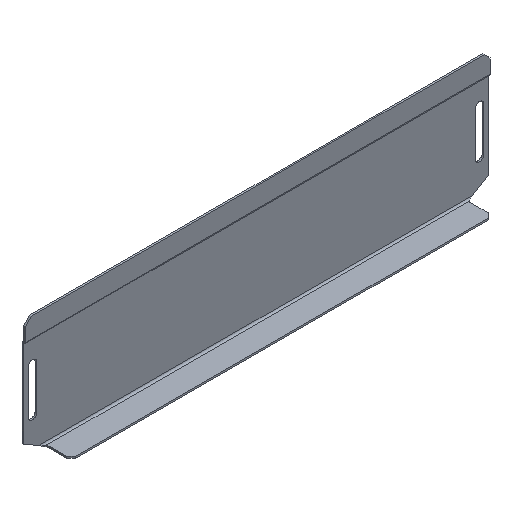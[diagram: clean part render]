
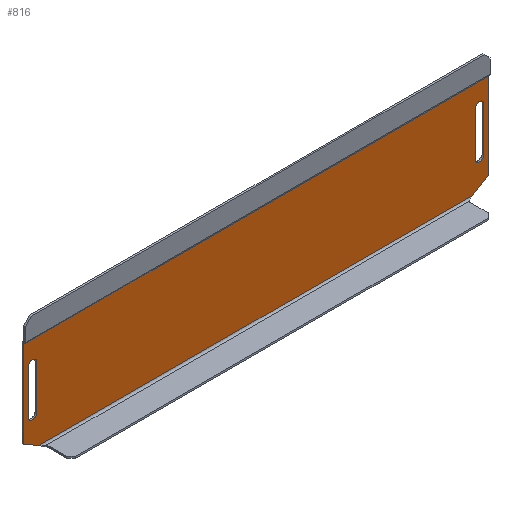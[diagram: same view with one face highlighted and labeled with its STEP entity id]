
A CAD part, isometric view. The second image highlights one B-rep face of the part: STEP entity #816.
In plain terms, the highlighted planar face has unit normal (0, -1, 0).
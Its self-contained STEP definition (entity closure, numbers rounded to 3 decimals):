
#23 = DIRECTION ( 'NONE',  ( 0.862, 0., 0.507 ) ) ;
#25 = CARTESIAN_POINT ( 'NONE',  ( -151.25, 0., 50.6 ) ) ;
#37 = LINE ( 'NONE', #359, #797 ) ;
#41 = DIRECTION ( 'NONE',  ( 0., 0., 1. ) ) ;
#49 = DIRECTION ( 'NONE',  ( 0., 0., 1. ) ) ;
#60 = CARTESIAN_POINT ( 'NONE',  ( 160.25, 0., 6.155 ) ) ;
#64 = VERTEX_POINT ( 'NONE', #758 ) ;
#71 = CIRCLE ( 'NONE', #1260, 3. ) ;
#82 = EDGE_CURVE ( 'NONE', #64, #90, #217, .T. ) ;
#85 = VECTOR ( 'NONE', #49, 1000. ) ;
#88 = VERTEX_POINT ( 'NONE', #476 ) ;
#90 = VERTEX_POINT ( 'NONE', #370 ) ;
#99 = CARTESIAN_POINT ( 'NONE',  ( -154.25, 0., 50.6 ) ) ;
#102 = DIRECTION ( 'NONE',  ( 0., 0., 1. ) ) ;
#110 = DIRECTION ( 'NONE',  ( 0., 0., -1. ) ) ;
#111 = LINE ( 'NONE', #812, #863 ) ;
#114 = LINE ( 'NONE', #342, #85 ) ;
#115 = AXIS2_PLACEMENT_3D ( 'NONE', #386, #682, #102 ) ;
#138 = EDGE_LOOP ( 'NONE', ( #1230, #892, #783, #1175, #417, #1079 ) ) ;
#140 = DIRECTION ( 'NONE',  ( 0., 1., 0. ) ) ;
#146 = CARTESIAN_POINT ( 'NONE',  ( 151.25, 0., 50.6 ) ) ;
#170 = EDGE_CURVE ( 'NONE', #493, #992, #368, .T. ) ;
#183 = EDGE_CURVE ( 'NONE', #1068, #1207, #198, .T. ) ;
#193 = DIRECTION ( 'NONE',  ( 0., 0., -1. ) ) ;
#198 = LINE ( 'NONE', #974, #1144 ) ;
#200 = AXIS2_PLACEMENT_3D ( 'NONE', #556, #1129, #41 ) ;
#217 = LINE ( 'NONE', #265, #985 ) ;
#226 = CARTESIAN_POINT ( 'NONE',  ( 160.25, 0., 0. ) ) ;
#255 = DIRECTION ( 'NONE',  ( 0., 0., -1. ) ) ;
#256 = CIRCLE ( 'NONE', #750, 3. ) ;
#264 = ORIENTED_EDGE ( 'NONE', *, *, #638, .F. ) ;
#265 = CARTESIAN_POINT ( 'NONE',  ( -157.25, 0., 50.6 ) ) ;
#279 = EDGE_CURVE ( 'NONE', #706, #1293, #788, .T. ) ;
#300 = ORIENTED_EDGE ( 'NONE', *, *, #183, .F. ) ;
#342 = CARTESIAN_POINT ( 'NONE',  ( 151.25, 0., 50.6 ) ) ;
#353 = CARTESIAN_POINT ( 'NONE',  ( 154.25, 0., 53.6 ) ) ;
#356 = EDGE_CURVE ( 'NONE', #382, #64, #479, .T. ) ;
#359 = CARTESIAN_POINT ( 'NONE',  ( -149.781, 0., 0. ) ) ;
#362 = ORIENTED_EDGE ( 'NONE', *, *, #170, .T. ) ;
#368 = LINE ( 'NONE', #1167, #741 ) ;
#370 = CARTESIAN_POINT ( 'NONE',  ( -157.25, 0., 20.6 ) ) ;
#371 = AXIS2_PLACEMENT_3D ( 'NONE', #99, #802, #613 ) ;
#377 = DIRECTION ( 'NONE',  ( 0., 0., 1. ) ) ;
#382 = VERTEX_POINT ( 'NONE', #796 ) ;
#386 = CARTESIAN_POINT ( 'NONE',  ( -154.25, 0., 50.6 ) ) ;
#417 = ORIENTED_EDGE ( 'NONE', *, *, #1266, .F. ) ;
#476 = CARTESIAN_POINT ( 'NONE',  ( -160.25, 0., 6.155 ) ) ;
#479 = CIRCLE ( 'NONE', #115, 3. ) ;
#493 = VERTEX_POINT ( 'NONE', #598 ) ;
#504 = EDGE_CURVE ( 'NONE', #515, #1293, #111, .T. ) ;
#506 = FACE_BOUND ( 'NONE', #1203, .T. ) ;
#515 = VERTEX_POINT ( 'NONE', #803 ) ;
#526 = CARTESIAN_POINT ( 'NONE',  ( -151.25, 0., 20.6 ) ) ;
#531 = CARTESIAN_POINT ( 'NONE',  ( 160.25, 0., 66.168 ) ) ;
#537 = CIRCLE ( 'NONE', #371, 3. ) ;
#541 = DIRECTION ( 'NONE',  ( 0., 0., 1. ) ) ;
#551 = CARTESIAN_POINT ( 'NONE',  ( 154.25, 0., 20.6 ) ) ;
#555 = ORIENTED_EDGE ( 'NONE', *, *, #356, .F. ) ;
#556 = CARTESIAN_POINT ( 'NONE',  ( -154.25, 0., 20.6 ) ) ;
#559 = FACE_OUTER_BOUND ( 'NONE', #138, .T. ) ;
#576 = ORIENTED_EDGE ( 'NONE', *, *, #1027, .T. ) ;
#597 = EDGE_CURVE ( 'NONE', #664, #1238, #256, .T. ) ;
#598 = CARTESIAN_POINT ( 'NONE',  ( 157.25, 0., 50.6 ) ) ;
#613 = DIRECTION ( 'NONE',  ( 0., 0., 1. ) ) ;
#618 = ORIENTED_EDGE ( 'NONE', *, *, #855, .F. ) ;
#623 = DIRECTION ( 'NONE',  ( 0., -1., 0. ) ) ;
#638 = EDGE_CURVE ( 'NONE', #90, #1068, #1043, .T. ) ;
#644 = FACE_BOUND ( 'NONE', #777, .T. ) ;
#664 = VERTEX_POINT ( 'NONE', #146 ) ;
#682 = DIRECTION ( 'NONE',  ( 0., -1., 0. ) ) ;
#688 = VECTOR ( 'NONE', #193, 1000. ) ;
#706 = VERTEX_POINT ( 'NONE', #1050 ) ;
#707 = PLANE ( 'NONE',  #921 ) ;
#730 = VECTOR ( 'NONE', #1143, 1000. ) ;
#741 = VECTOR ( 'NONE', #993, 1000. ) ;
#749 = LINE ( 'NONE', #966, #1008 ) ;
#750 = AXIS2_PLACEMENT_3D ( 'NONE', #1245, #140, #541 ) ;
#755 = DIRECTION ( 'NONE',  ( 0., 1., 0. ) ) ;
#756 = CARTESIAN_POINT ( 'NONE',  ( 149.781, 0., 0. ) ) ;
#758 = CARTESIAN_POINT ( 'NONE',  ( -157.25, 0., 50.6 ) ) ;
#777 = EDGE_LOOP ( 'NONE', ( #809, #814, #362, #997, #576 ) ) ;
#783 = ORIENTED_EDGE ( 'NONE', *, *, #279, .F. ) ;
#788 = LINE ( 'NONE', #901, #688 ) ;
#790 = VERTEX_POINT ( 'NONE', #1101 ) ;
#796 = CARTESIAN_POINT ( 'NONE',  ( -154.25, 0., 53.6 ) ) ;
#797 = VECTOR ( 'NONE', #1110, 1000. ) ;
#802 = DIRECTION ( 'NONE',  ( 0., -1., 0. ) ) ;
#803 = CARTESIAN_POINT ( 'NONE',  ( 149.781, 0., 0. ) ) ;
#809 = ORIENTED_EDGE ( 'NONE', *, *, #597, .T. ) ;
#812 = CARTESIAN_POINT ( 'NONE',  ( 149.781, 0., 0. ) ) ;
#814 = ORIENTED_EDGE ( 'NONE', *, *, #1055, .T. ) ;
#816 = ADVANCED_FACE ( 'NONE', ( #644, #506, #559 ), #707, .T. ) ;
#819 = EDGE_CURVE ( 'NONE', #706, #859, #1194, .T. ) ;
#855 = EDGE_CURVE ( 'NONE', #1207, #382, #537, .T. ) ;
#859 = VERTEX_POINT ( 'NONE', #1098 ) ;
#861 = CARTESIAN_POINT ( 'NONE',  ( 154.25, 0., 50.6 ) ) ;
#863 = VECTOR ( 'NONE', #23, 1000. ) ;
#865 = DIRECTION ( 'NONE',  ( 0., 0., 1. ) ) ;
#892 = ORIENTED_EDGE ( 'NONE', *, *, #504, .T. ) ;
#901 = CARTESIAN_POINT ( 'NONE',  ( 160.25, 0., 81.2 ) ) ;
#921 = AXIS2_PLACEMENT_3D ( 'NONE', #226, #623, #110 ) ;
#956 = DIRECTION ( 'NONE',  ( 0., 1., 0. ) ) ;
#966 = CARTESIAN_POINT ( 'NONE',  ( -160.25, 0., 81.2 ) ) ;
#974 = CARTESIAN_POINT ( 'NONE',  ( -151.25, 0., 50.6 ) ) ;
#985 = VECTOR ( 'NONE', #255, 1000. ) ;
#992 = VERTEX_POINT ( 'NONE', #1126 ) ;
#993 = DIRECTION ( 'NONE',  ( 0., 0., -1. ) ) ;
#997 = ORIENTED_EDGE ( 'NONE', *, *, #1022, .T. ) ;
#1008 = VECTOR ( 'NONE', #865, 1000. ) ;
#1022 = EDGE_CURVE ( 'NONE', #992, #1285, #71, .T. ) ;
#1027 = EDGE_CURVE ( 'NONE', #1285, #664, #114, .T. ) ;
#1030 = ORIENTED_EDGE ( 'NONE', *, *, #82, .F. ) ;
#1043 = CIRCLE ( 'NONE', #200, 3. ) ;
#1050 = CARTESIAN_POINT ( 'NONE',  ( 160.25, 0., 66.168 ) ) ;
#1051 = CARTESIAN_POINT ( 'NONE',  ( 151.25, 0., 20.6 ) ) ;
#1053 = DIRECTION ( 'NONE',  ( 0., 0., 1. ) ) ;
#1055 = EDGE_CURVE ( 'NONE', #1238, #493, #1100, .T. ) ;
#1068 = VERTEX_POINT ( 'NONE', #526 ) ;
#1079 = ORIENTED_EDGE ( 'NONE', *, *, #1081, .T. ) ;
#1081 = EDGE_CURVE ( 'NONE', #88, #790, #37, .T. ) ;
#1098 = CARTESIAN_POINT ( 'NONE',  ( -160.25, 0., 66.168 ) ) ;
#1100 = CIRCLE ( 'NONE', #1122, 3. ) ;
#1101 = CARTESIAN_POINT ( 'NONE',  ( -149.781, 0., 0. ) ) ;
#1110 = DIRECTION ( 'NONE',  ( 0.862, 0., -0.507 ) ) ;
#1122 = AXIS2_PLACEMENT_3D ( 'NONE', #861, #956, #1053 ) ;
#1126 = CARTESIAN_POINT ( 'NONE',  ( 157.25, 0., 20.6 ) ) ;
#1129 = DIRECTION ( 'NONE',  ( 0., -1., 0. ) ) ;
#1143 = DIRECTION ( 'NONE',  ( -1., 0., 0. ) ) ;
#1144 = VECTOR ( 'NONE', #377, 1000. ) ;
#1167 = CARTESIAN_POINT ( 'NONE',  ( 157.25, 0., 50.6 ) ) ;
#1175 = ORIENTED_EDGE ( 'NONE', *, *, #819, .T. ) ;
#1178 = LINE ( 'NONE', #756, #730 ) ;
#1194 = LINE ( 'NONE', #531, #1273 ) ;
#1203 = EDGE_LOOP ( 'NONE', ( #1030, #555, #618, #300, #264 ) ) ;
#1207 = VERTEX_POINT ( 'NONE', #25 ) ;
#1224 = DIRECTION ( 'NONE',  ( -1., 0., 0. ) ) ;
#1230 = ORIENTED_EDGE ( 'NONE', *, *, #1290, .F. ) ;
#1238 = VERTEX_POINT ( 'NONE', #353 ) ;
#1245 = CARTESIAN_POINT ( 'NONE',  ( 154.25, 0., 50.6 ) ) ;
#1259 = DIRECTION ( 'NONE',  ( 0., 0., 1. ) ) ;
#1260 = AXIS2_PLACEMENT_3D ( 'NONE', #551, #755, #1259 ) ;
#1266 = EDGE_CURVE ( 'NONE', #88, #859, #749, .T. ) ;
#1273 = VECTOR ( 'NONE', #1224, 1000. ) ;
#1285 = VERTEX_POINT ( 'NONE', #1051 ) ;
#1290 = EDGE_CURVE ( 'NONE', #515, #790, #1178, .T. ) ;
#1293 = VERTEX_POINT ( 'NONE', #60 ) ;
